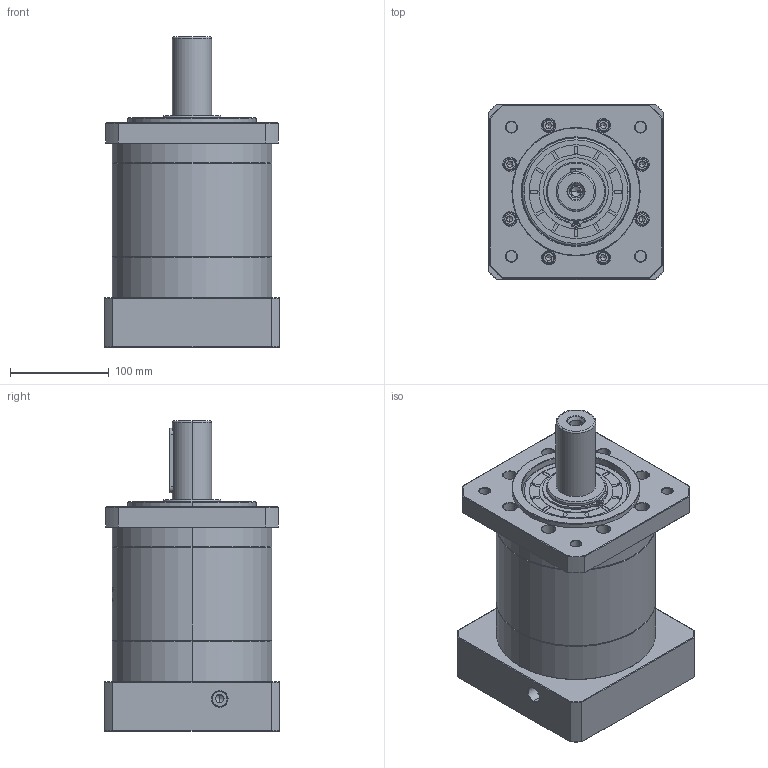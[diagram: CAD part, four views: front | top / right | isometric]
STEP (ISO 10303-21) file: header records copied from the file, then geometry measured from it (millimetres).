
FILE_DESCRIPTION (( 'STEP AP214' ), '1' );
FILE_NAME ('ZF160-D40-L2-35-150-200-M12.step', '2023-03-21T04:29:41', ( '' ), ( '' ), 'SwSTEP 2.0', 'SolidWorks 2016', '' );
FILE_SCHEMA (( 'AUTOMOTIVE_DESIGN' ));
Length unit declared in the file: millimetre
Products named in the file (1): ZF160-D40-L2-35-150-200-M12
Bounding box: 178 x 178 x 314.2 mm (x, y, z)
Volume: 5076201 mm3; surface area: 362033.7 mm2
Topology: 6 solids, 6 shells, 1618 faces, 4202 edges, 2688 vertices
Faces by surface type: plane 644, cylinder 408, cone 326, bspline 218, torus 22
Entity records: 93132 total; most frequent: CARTESIAN_POINT 37888, ORIENTED_EDGE 8344, DIRECTION 7096, EDGE_CURVE 4172, VERTEX_POINT 2688, AXIS2_PLACEMENT_3D 2460, LINE 2176, VECTOR 2176
